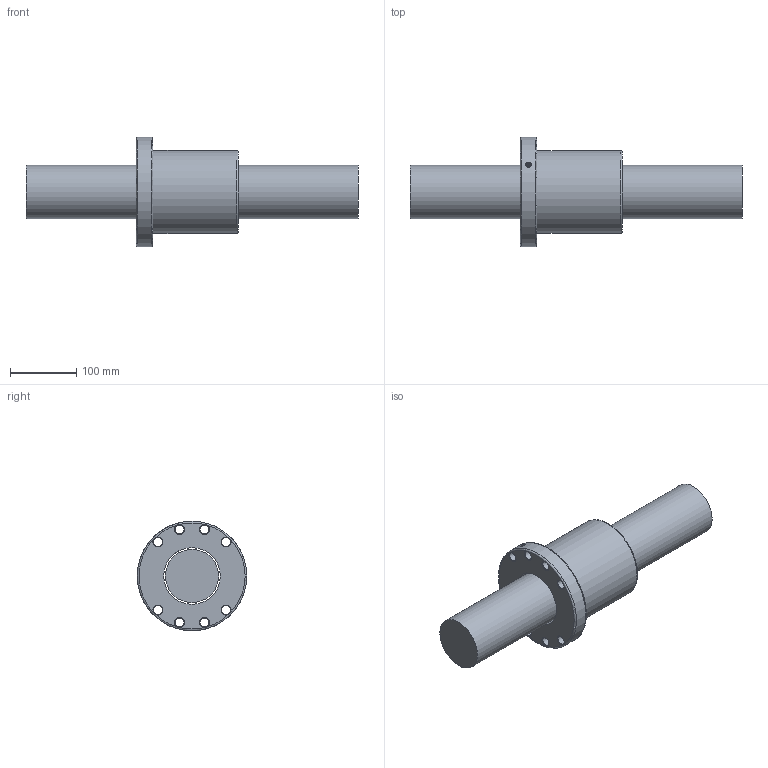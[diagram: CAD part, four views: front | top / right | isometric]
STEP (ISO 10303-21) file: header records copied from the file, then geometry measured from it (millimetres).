
FILE_DESCRIPTION (( 'STEP AP203' ), '1' );
FILE_NAME ('SFNU08020N-4.step', '2024-05-10T07:01:32', ( '' ), ( '' ), 'SwSTEP 2.0', 'SolidWorks 2022', '' );
FILE_SCHEMA (( 'CONFIG_CONTROL_DESIGN' ));
Length unit declared in the file: millimetre
Products named in the file (1): SFNU08020N-4
Bounding box: 500 x 165 x 165 mm (x, y, z)
Volume: 3721401.9 mm3; surface area: 276889.1 mm2
Topology: 2 solids, 2 shells, 49 faces, 161 edges, 101 vertices
Faces by surface type: cylinder 19, cone 17, plane 6, bspline 4, torus 3
Full cylindrical faces by diameter (mm): 4 x1, 7 x5, 13.5 x8, 80 x1, 85.2 x1, 125 x1, 165 x1
Entity records: 3047 total; most frequent: CARTESIAN_POINT 1982, DIRECTION 204, ORIENTED_EDGE 178, AXIS2_PLACEMENT_3D 100, EDGE_CURVE 89, EDGE_LOOP 84, VERTEX_POINT 69, FACE_OUTER_BOUND 62
